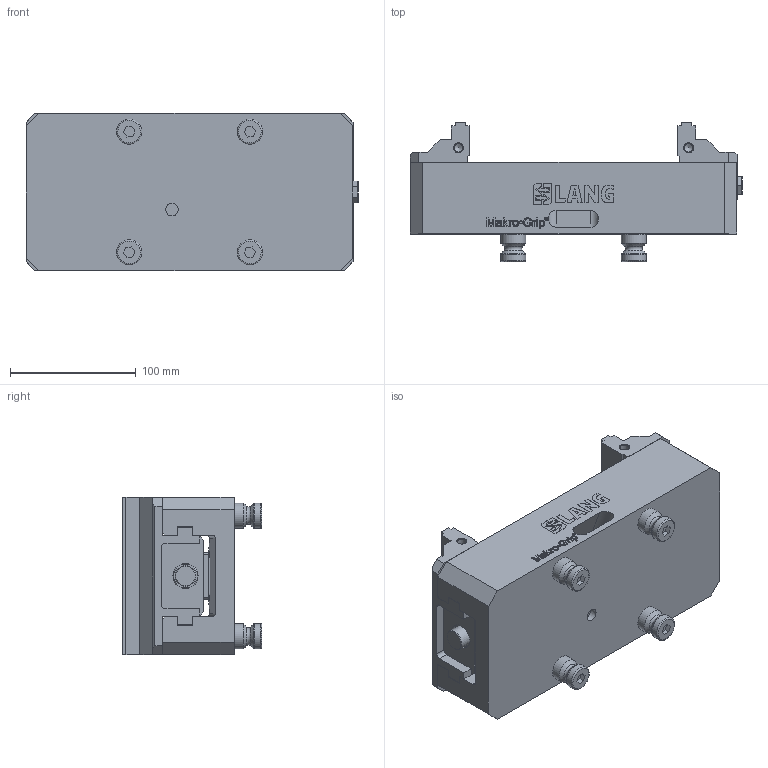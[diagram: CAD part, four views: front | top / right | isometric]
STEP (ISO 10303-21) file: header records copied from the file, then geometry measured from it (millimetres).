
FILE_DESCRIPTION (( 'STEP AP214' ), '1' );
FILE_NAME ('48255-125.STEP', '2020-02-07T13:53:57', ( '' ), ( '' ), 'SwSTEP 2.0', 'SolidWorks 2019', '' );
FILE_SCHEMA (( 'AUTOMOTIVE_DESIGN' ));
Length unit declared in the file: millimetre
Products named in the file (3): 48255-125; Makro-Grip_48255-125; 48125-2520
Assembly tree (3 placements, depth 2):
  48255-125
    Makro-Grip_48255-125
    48125-2520  x2
Bounding box: 264.08 x 111.01 x 125.24 mm (x, y, z)
Volume: 1548796.3 mm3; surface area: 239751.3 mm2
Topology: 50 solids, 50 shells, 922 faces, 2347 edges, 1542 vertices
Faces by surface type: plane 625, bspline 192, cylinder 58, cone 35, torus 12
Full cylindrical faces by diameter (mm): 6.8 x4, 8.5 x8, 10 x1, 16 x8, 16.5 x1, 20 x12
Entity records: 42992 total; most frequent: CARTESIAN_POINT 13871, ORIENTED_EDGE 4172, DIRECTION 3141, EDGE_CURVE 2086, LINE 1567, VECTOR 1567, VERTEX_POINT 1413, EDGE_LOOP 983
